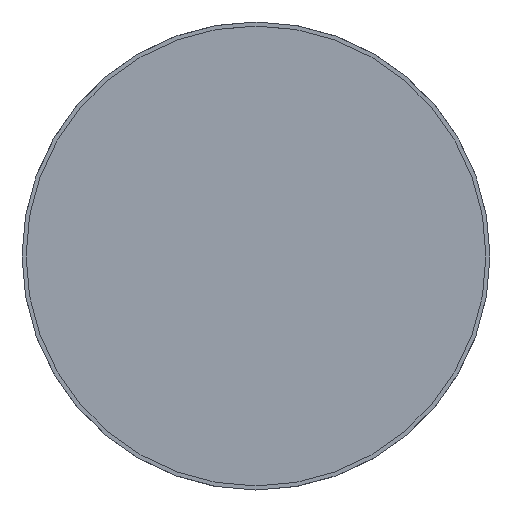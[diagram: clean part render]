
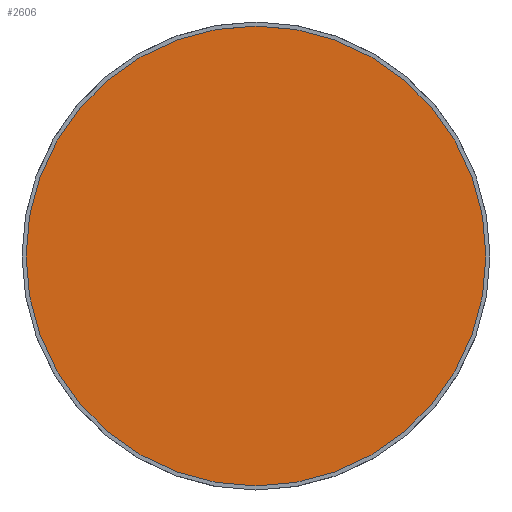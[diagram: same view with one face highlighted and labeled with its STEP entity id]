
A CAD part, top view. The second image highlights one B-rep face of the part: STEP entity #2606.
In plain terms, the highlighted planar face has unit normal (0, 0, 1).
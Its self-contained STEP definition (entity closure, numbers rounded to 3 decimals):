
#293=CARTESIAN_POINT('',(0.,0.,4.93));
#294=DIRECTION('',(0.,0.,-1.));
#295=DIRECTION('',(-1.,0.,0.));
#296=AXIS2_PLACEMENT_3D('',#293,#294,#295);
#298=CARTESIAN_POINT('',(0.,0.,4.93));
#299=DIRECTION('',(0.,0.,-1.));
#300=DIRECTION('',(1.,0.,0.));
#301=AXIS2_PLACEMENT_3D('',#298,#299,#300);
#1677=CARTESIAN_POINT('',(14.25,0.,4.93));
#1678=VERTEX_POINT('',#1677);
#1679=CARTESIAN_POINT('',(-14.25,0.,4.93));
#1680=VERTEX_POINT('',#1679);
#2597=CARTESIAN_POINT('',(0.,0.,4.93));
#2598=DIRECTION('',(0.,0.,1.));
#2599=DIRECTION('',(1.,0.,0.));
#2600=AXIS2_PLACEMENT_3D('',#2597,#2598,#2599);
#2601=PLANE('',#2600);
#2602=ORIENTED_EDGE('',*,*,#2576,.T.);
#2603=ORIENTED_EDGE('',*,*,#2591,.T.);
#2604=EDGE_LOOP('',(#2602,#2603));
#2605=FACE_OUTER_BOUND('',#2604,.F.);
#2606=ADVANCED_FACE('',(#2605),#2601,.T.);
#297=CIRCLE('',#296,14.25);
#302=CIRCLE('',#301,14.25);
#2576=EDGE_CURVE('',#1680,#1678,#297,.T.);
#2591=EDGE_CURVE('',#1678,#1680,#302,.T.);
